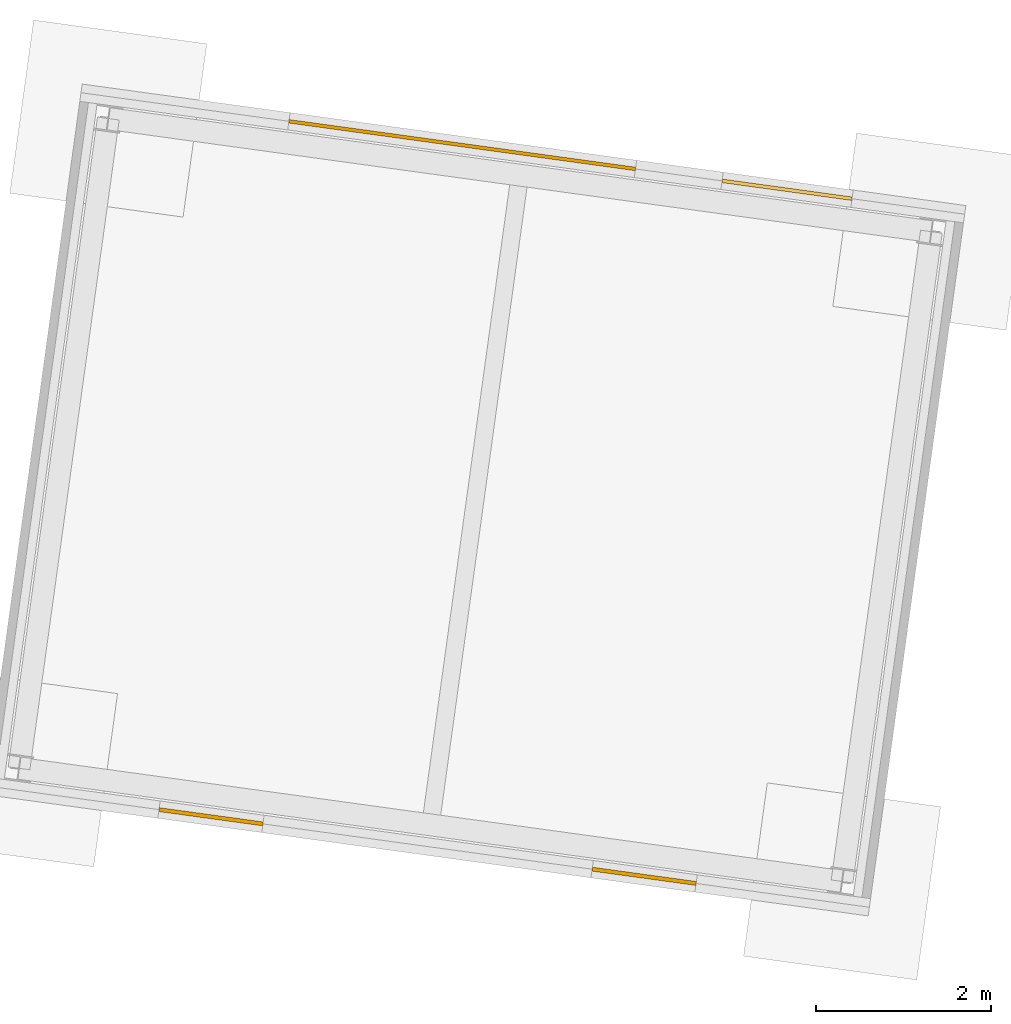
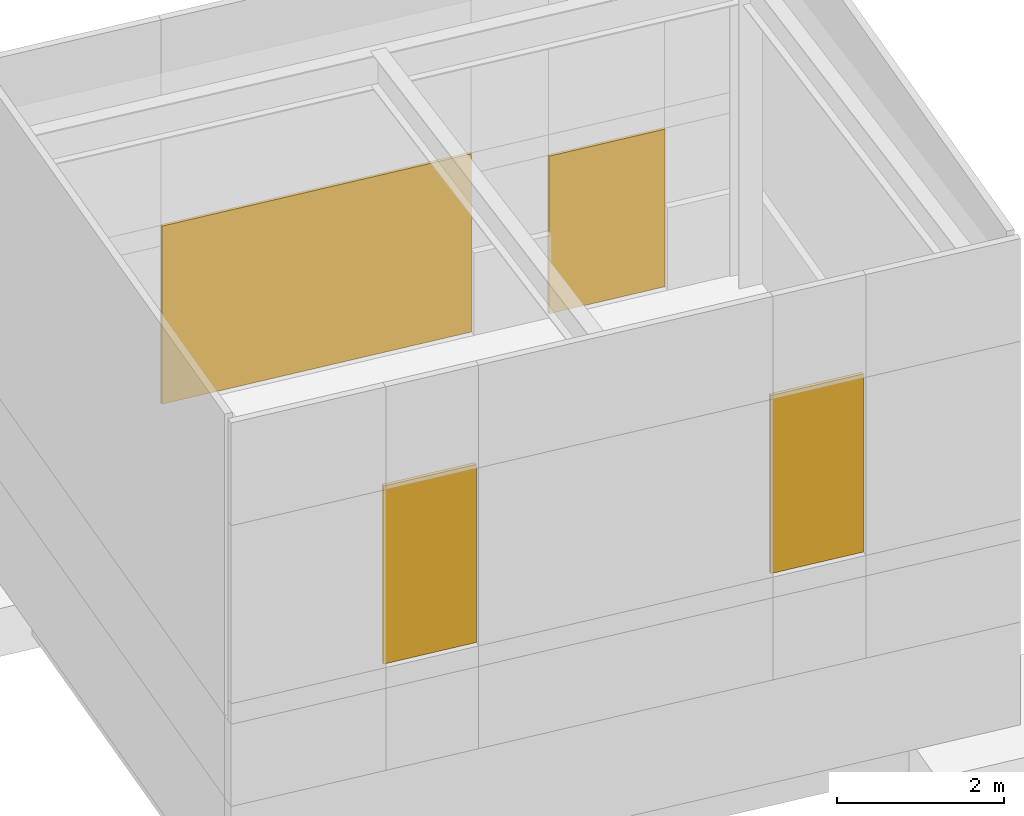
# One storey, part 3 of 3: 2 doors, 2 windows.
"""IFC4 building model written with IfcOpenShell, lengths in metres."""

from ifc_helpers import new_model, si_unit, direction, origin_with_axes, place, context, subcontext, project, spatial, triangles, material, element, save


model = new_model("IFC4")

# Units and contexts
model_context = context("Model", 3, precision=1e-05, world=origin_with_axes(), true_north=direction((0.0, 1.0)))
body_context = subcontext(model_context, "Body", "Model", "MODEL_VIEW")
ifc_project = project(units=[si_unit("AREAUNIT", "SQUARE_METRE"), si_unit("VOLUMEUNIT", "CUBIC_METRE"), si_unit("LENGTHUNIT", "METRE")], contexts=[model_context])

# Site, building, storey
site_placement = place(None, origin_with_axes())
site = spatial("IfcSite", under=ifc_project, at=site_placement, Name="Parcela industrial Jinhong")
building_placement = place(site_placement, origin_with_axes())
building = spatial("IfcBuilding", under=site, at=building_placement, Name="Sala de bombas contra incendios")
storey_placement = place(building_placement, origin_with_axes())
storey = spatial("IfcBuildingStorey", under=building, at=storey_placement, Name="Planta baja", Elevation=1.25)

# Doors
ifc_material_1 = material(Name="Aluminio", Category="Material documentado")
door_1_placement = place(storey_placement, origin_with_axes())
element("IfcDoor", 1, at=door_1_placement, inside=storey, material=ifc_material_1, Name="Sala de bombas contra incendios · puerta JLM4026", PredefinedType="DOOR", context=body_context, shape_type="Tessellation", body=[
    triangles([(11.594253, 34.47166, 1.25), (15.556977, 33.926845, 1.25), (15.562425, 33.966472, 1.25), (11.599702, 34.511288, 1.25), (11.594253, 34.47166, 3.85), (15.556977, 33.926845, 3.85), (15.562425, 33.966472, 3.85), (11.599702, 34.511288, 3.85)], [[2, 1, 4], [4, 3, 2], [8, 5, 6], [6, 7, 8], [1, 2, 6], [1, 6, 5], [2, 3, 7], [2, 7, 6], [3, 4, 8], [3, 8, 7], [4, 1, 5], [4, 5, 8]], closed=True),
])
ifc_material_2 = material(Name="Acero lacado", Category="Material documentado")
door_2_placement = place(storey_placement, origin_with_axes())
element("IfcDoor", 2, at=door_2_placement, inside=storey, material=ifc_material_2, Name="Sala de bombas contra incendios · puerta WM1523", PredefinedType="DOOR", context=body_context, shape_type="Tessellation", body=[
    triangles([(16.547658, 33.790641, 1.25), (18.033679, 33.586335, 1.25), (18.039127, 33.625962, 1.25), (16.553106, 33.830268, 1.25), (16.547658, 33.790641, 3.55), (18.033679, 33.586335, 3.55), (18.039127, 33.625962, 3.55), (16.553106, 33.830268, 3.55)], [[2, 1, 4], [4, 3, 2], [8, 5, 6], [6, 7, 8], [1, 2, 6], [1, 6, 5], [2, 3, 7], [2, 7, 6], [3, 4, 8], [3, 8, 7], [4, 1, 5], [4, 5, 8]], closed=True),
])

# Windows
ifc_material_3 = material(Name="Aluminio, policarbonato y lamas de ventilación", Category="Material documentado")
window_1_placement = place(storey_placement, origin_with_axes())
element("IfcWindow", 3, at=window_1_placement, inside=storey, material=ifc_material_3, Name="Sala de bombas contra incendios · ventana C1226_1", PredefinedType="WINDOW", context=body_context, shape_type="Tessellation", body=[
    triangles([(10.108009, 26.598219, 2.75), (11.296826, 26.434774, 2.75), (11.302955, 26.479354, 2.75), (10.114138, 26.642799, 2.75), (10.108009, 26.598219, 5.35), (11.296826, 26.434774, 5.35), (11.302955, 26.479354, 5.35), (10.114138, 26.642799, 5.35)], [[2, 1, 4], [4, 3, 2], [8, 5, 6], [6, 7, 8], [1, 2, 6], [1, 6, 5], [2, 3, 7], [2, 7, 6], [3, 4, 8], [3, 8, 7], [4, 1, 5], [4, 5, 8]], closed=True),
])
window_2_placement = place(storey_placement, origin_with_axes())
element("IfcWindow", 4, at=window_2_placement, inside=storey, material=ifc_material_3, Name="Sala de bombas contra incendios · ventana C1226_2", PredefinedType="WINDOW", context=body_context, shape_type="Tessellation", body=[
    triangles([(15.061413, 25.917199, 2.75), (16.25023, 25.753754, 2.75), (16.256359, 25.798335, 2.75), (15.067542, 25.96178, 2.75), (15.061413, 25.917199, 5.35), (16.25023, 25.753754, 5.35), (16.256359, 25.798335, 5.35), (15.067542, 25.96178, 5.35)], [[2, 1, 4], [4, 3, 2], [8, 5, 6], [6, 7, 8], [1, 2, 6], [1, 6, 5], [2, 3, 7], [2, 7, 6], [3, 4, 8], [3, 8, 7], [4, 1, 5], [4, 5, 8]], closed=True),
])

save(model, "model.ifc")
